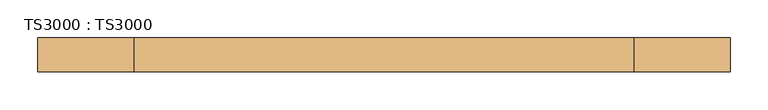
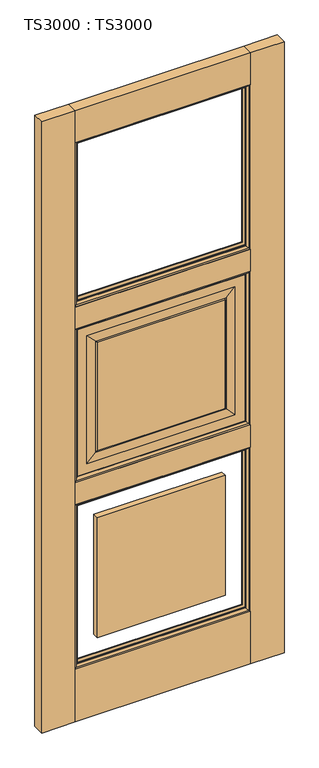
"""IFC4 building model written with IfcOpenShell, lengths in millimetres: door geometry, TS3000 : TS3000."""

from ifc_helpers import new_model, si_unit, frame, origin, origin_with_axes, place, context, project, spatial, polyline, ellipse_curve, outline, extrude, source, transform, mapped, element, save
from ifc_brep_helpers import plane_surface, revolved_surface, advanced_brep


def ts3000_ts3000_933aa4a2(model_context):
    return source(origin(), model_context, "Body", "SolidModel", [
        extrude(outline(polyline([(787.4, -44.45), (127.0, -44.45), (127.0, 0.0), (787.4, 0.0), (787.4, -44.45)])), origin_with_axes(), (0.0, 0.0, 1.0), 209.55),
        extrude(outline(polyline([(787.4, -44.45), (127.0, -44.45), (127.0, 0.0), (787.4, 0.0), (787.4, -44.45)])), frame((0.0, 0.0, 865.7166667), z_axis=(0.0, 0.0, 1.0), x_axis=(1.0, 0.0, 0.0)), (0.0, 0.0, 1.0), 88.9),
        extrude(outline(polyline([(787.4, -44.45), (127.0, -44.45), (127.0, 0.0), (787.4, 0.0), (787.4, -44.45)])), frame((0.0, 0.0, 2311.4), z_axis=(0.0, 0.0, 1.0), x_axis=(1.0, 0.0, 0.0)), (0.0, 0.0, 1.0), 127.0),
        extrude(outline(polyline([(787.4, -44.45), (127.0, -44.45), (127.0, 0.0), (787.4, 0.0), (787.4, -44.45)])), frame((0.0, 0.0, 1566.3333333), z_axis=(0.0, 0.0, 1.0), x_axis=(1.0, 0.0, 0.0)), (0.0, 0.0, 1.0), 88.9),
        extrude(outline(polyline([(914.4, -44.45), (787.4, -44.45), (787.4, 0.0), (914.4, 0.0), (914.4, -44.45)])), origin_with_axes(), (0.0, 0.0, 1.0), 2438.4),
        extrude(outline(polyline([(127.0, -44.45), (0.0, -44.45), (0.0, 0.0), (127.0, 0.0), (127.0, -44.45)])), origin_with_axes(), (0.0, 0.0, 1.0), 2438.4),
        advanced_brep(
        [(787.4, -12.7, 1566.3333333), (787.4, -31.75, 1566.3333333), (787.4, -31.75, 954.6166667), (787.4, -12.7, 954.6166667), (127.0, -31.75, 1566.3333333), (127.0, -31.75, 954.6166667), (736.6, -31.75, 1005.4166667), (177.8, -31.75, 1005.4166667), (177.8, -31.75, 1515.5333333), (736.6, -31.75, 1515.5333333), (127.0, -12.7, 954.6166667), (127.0, -12.7, 1566.3333333), (736.6, -12.7, 1515.5333333), (177.8, -12.7, 1515.5333333), (177.8, -12.7, 1005.4166667), (736.6, -12.7, 1005.4166667), (698.5, -33.3375, 1477.4333333), (698.5, -11.1125, 1477.4333333), (698.5, -11.1125, 1043.5166667), (698.5, -33.3375, 1043.5166667), (703.2625, -13.49375, 1482.1958333), (703.2625, -13.49375, 1038.7541667), (215.9, -11.1125, 1043.5166667), (215.9, -33.3375, 1043.5166667), (703.2625, -30.95625, 1482.1958333), (703.2625, -30.95625, 1038.7541667), (211.1375, -13.49375, 1038.7541667), (215.9, -11.1125, 1477.4333333), (215.9, -33.3375, 1477.4333333), (211.1375, -30.95625, 1038.7541667), (211.1375, -13.49375, 1482.1958333), (211.1375, -30.95625, 1482.1958333)],
        [
            (0, 1),
            (1, 2),
            (2, 3),
            (3, 0),
            (1, 4),
            (4, 5),
            (5, 2),
            (6, 7),
            (7, 8),
            (8, 9),
            (9, 6),
            (5, 10),
            (10, 3),
            (10, 11),
            (11, 0),
            (12, 13),
            (13, 14),
            (14, 15),
            (15, 12),
            (16, 17),
            (17, 18),
            (18, 19),
            (19, 16),
            (17, 20, ellipse_curve(frame((703.7585938, -6.5484375, 1482.6919271), z_axis=(-0.7071067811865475, 0.0, 0.7071067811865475), x_axis=(-0.7071067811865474, 0.0, -0.7071067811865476)), 9.8471798, 6.9630076)),
            (20, 21),
            (21, 18, ellipse_curve(frame((703.7585938, -6.5484375, 1038.2580729), z_axis=(-0.7071067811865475, 0.0, -0.7071067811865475), x_axis=(0.7071067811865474, 0.0, -0.7071067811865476)), 9.8471798, 6.9630076)),
            (18, 22),
            (22, 23),
            (23, 19),
            (24, 16, ellipse_curve(frame((703.7585938, -37.9015625, 1482.6919271), z_axis=(-0.7071067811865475, 0.0, 0.7071067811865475), x_axis=(-0.7071067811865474, 0.0, -0.7071067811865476)), 9.8471798, 6.9630076)),
            (19, 25, ellipse_curve(frame((703.7585938, -37.9015625, 1038.2580729), z_axis=(-0.7071067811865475, 0.0, -0.7071067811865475), x_axis=(0.7071067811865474, 0.0, -0.7071067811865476)), 9.8471798, 6.9630076)),
            (25, 24),
            (4, 11),
            (21, 26),
            (26, 22, ellipse_curve(frame((210.6414063, -6.5484375, 1038.2580729), z_axis=(-0.7071067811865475, 0.0, 0.7071067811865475), x_axis=(-0.7071067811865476, 0.0, -0.7071067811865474)), 9.8471798, 6.9630076)),
            (22, 27),
            (27, 28),
            (28, 23),
            (23, 29, ellipse_curve(frame((210.6414063, -37.9015625, 1038.2580729), z_axis=(-0.7071067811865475, 0.0, 0.7071067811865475), x_axis=(-0.7071067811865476, 0.0, -0.7071067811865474)), 9.8471798, 6.9630076)),
            (29, 25),
            (26, 30),
            (30, 27, ellipse_curve(frame((210.6414063, -6.5484375, 1482.6919271), z_axis=(0.7071067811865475, 0.0, 0.7071067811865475), x_axis=(-0.7071067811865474, 0.0, 0.7071067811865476)), 9.8471798, 6.9630076)),
            (28, 31, ellipse_curve(frame((210.6414063, -37.9015625, 1482.6919271), z_axis=(0.7071067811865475, 0.0, 0.7071067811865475), x_axis=(-0.7071067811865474, 0.0, 0.7071067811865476)), 9.8471798, 6.9630076)),
            (31, 29),
            (6, 25),
            (29, 7),
            (31, 8),
            (9, 24),
            (26, 14),
            (13, 30),
            (21, 15),
            (20, 12),
            (27, 17),
            (16, 28),
            (31, 24),
            (20, 30),
        ],
        [
            plane_surface(frame((787.4, -31.75, 1566.3333333), z_axis=(1.0, 0.0, 0.0), x_axis=(0.0, 0.0, -1.0))),
            plane_surface(frame((177.8, -31.75, 1515.5333333), z_axis=(0.0, -1.0, 0.0), x_axis=(1.0, 0.0, 0.0))),
            plane_surface(frame((787.4, -31.75, 954.6166667), z_axis=(0.0, 0.0, -1.0), x_axis=(-1.0, 0.0, 0.0))),
            plane_surface(frame((127.0, -12.7, 1566.3333333), z_axis=(0.0, 1.0, 0.0), x_axis=(1.0, 0.0, 0.0))),
            plane_surface(frame((698.5, -11.1125, 1477.4333333), z_axis=(-1.0, 0.0, 0.0), x_axis=(0.0, 0.0, -1.0))),
            revolved_surface(polyline([(696.7955862, -6.5484375, 1031.2950652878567), (696.7955862, -6.5484375, 1489.6549347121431)]), (703.7585938, -6.5484375, 1477.4333333), (0.0, 0.0, -1.0)),
            plane_surface(frame((698.5, -11.1125, 1043.5166667), z_axis=(0.0, 0.0, 1.0), x_axis=(-1.0, 0.0, 0.0))),
            revolved_surface(polyline([(696.7955862, -37.9015625, 1031.2950652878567), (696.7955862, -37.9015625, 1489.6549347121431)]), (703.7585938, -37.9015625, 1477.4333333), (0.0, 0.0, -1.0)),
            plane_surface(frame((127.0, -31.75, 954.6166667), z_axis=(-1.0, 0.0, 0.0), x_axis=(0.0, 0.0, 1.0))),
            revolved_surface(polyline([(203.67839868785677, -6.5484375, 1045.2210805), (710.7216014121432, -6.5484375, 1045.2210805)]), (698.5, -6.5484375, 1038.2580729), (-1.0, 0.0, 0.0)),
            plane_surface(frame((215.9, -11.1125, 1043.5166667), z_axis=(1.0, 0.0, 0.0), x_axis=(0.0, 0.0, 1.0))),
            revolved_surface(polyline([(203.67839868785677, -37.9015625, 1045.2210805), (710.7216014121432, -37.9015625, 1045.2210805)]), (698.5, -37.9015625, 1038.2580729), (-1.0, 0.0, 0.0)),
            revolved_surface(polyline([(217.6044139, -6.5484375, 1489.6549347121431), (217.6044139, -6.5484375, 1031.2950652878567)]), (210.6414063, -6.5484375, 1043.5166667), (0.0, 0.0, 1.0)),
            revolved_surface(polyline([(217.6044139, -37.9015625, 1489.6549347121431), (217.6044139, -37.9015625, 1031.2950652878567)]), (210.6414063, -37.9015625, 1043.5166667), (0.0, 0.0, 1.0)),
            plane_surface(frame((703.2625, -30.95625, 1038.7541667), z_axis=(0.0, -0.9997166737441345, 0.023802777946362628), x_axis=(-1.0, 0.0, 0.0))),
            plane_surface(frame((211.1375, -30.95625, 1038.7541667), z_axis=(0.023802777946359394, -0.9997166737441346, 0.0), x_axis=(0.0, 0.0, 1.0))),
            plane_surface(frame((703.2625, -30.95625, 1482.1958333), z_axis=(-0.02380277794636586, -0.9997166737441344, 0.0), x_axis=(0.0, 0.0, -1.0))),
            plane_surface(frame((177.8, -12.7, 1005.4166667), z_axis=(0.023802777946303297, 0.9997166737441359, 0.0), x_axis=(0.0, 0.0, 1.0))),
            plane_surface(frame((736.6, -12.7, 1005.4166667), z_axis=(0.0, 0.999716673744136, 0.023802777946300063), x_axis=(-1.0, 0.0, 0.0))),
            plane_surface(frame((736.6, -12.7, 1515.5333333), z_axis=(-0.02380277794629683, 0.9997166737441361, 0.0), x_axis=(0.0, 0.0, -1.0))),
            plane_surface(frame((127.0, -31.75, 1566.3333333), z_axis=(0.0, 0.0, 1.0), x_axis=(1.0, 0.0, 0.0))),
            plane_surface(frame((215.9, -11.1125, 1477.4333333), z_axis=(0.0, 0.0, -1.0), x_axis=(1.0, 0.0, 0.0))),
            plane_surface(frame((211.1375, -30.95625, 1482.1958333), z_axis=(0.0, -0.9997166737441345, -0.023802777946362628), x_axis=(1.0, 0.0, 0.0))),
            plane_surface(frame((177.8, -12.7, 1515.5333333), z_axis=(0.0, 0.999716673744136, -0.023802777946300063), x_axis=(1.0, 0.0, 0.0))),
            revolved_surface(polyline([(710.7216014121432, -6.5484375, 1475.7289194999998), (203.6783986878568, -6.5484375, 1475.7289194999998)]), (215.9, -6.5484375, 1482.6919271), (1.0, 0.0, 0.0)),
            revolved_surface(polyline([(710.7216014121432, -37.9015625, 1475.7289194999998), (203.6783986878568, -37.9015625, 1475.7289194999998)]), (215.9, -37.9015625, 1482.6919271), (1.0, 0.0, 0.0)),
        ],
        [
            (0, [[1, 2, 3, 4]]),
            (1, [[5, 6, 7, -2], [8, 9, 10, 11]]),
            (2, [[-3, -7, 12, 13]]),
            (3, [[-13, 14, 15, -4], [16, 17, 18, 19]]),
            (4, [[20, 21, 22, 23]]),
            (5, [[24, 25, 26, -21]]),
            (6, [[-22, 27, 28, 29]]),
            (7, [[30, -23, 31, 32]]),
            (8, [[-12, -6, 33, -14]]),
            (9, [[-26, 34, 35, -27]]),
            (10, [[-28, 36, 37, 38]]),
            (11, [[-31, -29, 39, 40]]),
            (12, [[-35, 41, 42, -36]]),
            (13, [[-39, -38, 43, 44]]),
            (14, [[45, -40, 46, -8]]),
            (15, [[-46, -44, 47, -9]]),
            (16, [[48, -32, -45, -11]]),
            (17, [[49, -17, 50, -41]]),
            (18, [[51, -18, -49, -34]]),
            (19, [[52, -19, -51, -25]]),
            (20, [[-33, -5, -1, -15]]),
            (21, [[-37, 53, -20, 54]]),
            (22, [[-47, 55, -48, -10]]),
            (23, [[-50, -16, -52, 56]]),
            (24, [[-42, -56, -24, -53]]),
            (25, [[-43, -54, -30, -55]]),
        ],
    ),
        extrude(outline(polyline([(215.9, -11.1125), (698.5, -11.1125), (698.5, -33.3375), (215.9, -33.3375), (215.9, -11.1125)])), frame((0.0, 0.0, 298.45), z_axis=(0.0, 0.0, 1.0), x_axis=(1.0, 0.0, 0.0)), (0.0, 0.0, 1.0), 478.3666667),
        extrude(outline(polyline([(215.9, -11.1125), (698.5, -11.1125), (698.5, -33.3375), (215.9, -33.3375), (215.9, -11.1125)])), frame((0.0, 0.0, 1043.5166667), z_axis=(0.0, 0.0, 1.0), x_axis=(1.0, 0.0, 0.0)), (0.0, 0.0, 1.0), 433.9166667),
        advanced_brep(
        [(787.4, -31.75, 865.7166667), (787.4, -44.4610047, 865.7166667), (787.4, -44.4610047, 209.55), (787.4, -31.75, 209.55), (774.6912454, -34.925, 853.007912), (774.6912454, -31.75, 853.007912), (774.6912454, -31.75, 222.2587546), (774.6912454, -34.925, 222.2587546), (782.5328423, -41.275, 860.849509), (782.5328423, -41.275, 214.4171577), (127.0, -44.4610047, 209.55), (127.0, -31.75, 209.55), (139.7087546, -31.75, 222.2587546), (139.7087546, -34.925, 222.2587546), (131.8671577, -41.275, 214.4171577), (127.0, -44.4610047, 865.7166667), (127.0, -31.75, 865.7166667), (139.7087546, -31.75, 853.007912), (139.7087546, -34.925, 853.007912), (131.8671577, -41.275, 860.849509)],
        [
            (0, 1),
            (1, 2),
            (2, 3),
            (3, 0),
            (4, 5),
            (5, 6),
            (6, 7),
            (7, 4),
            (8, 4, ellipse_curve(frame((770.549739, -48.0561173, 848.8664057), z_axis=(-0.7071067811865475, 0.0, 0.7071067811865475), x_axis=(-0.7071067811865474, 0.0, -0.7071067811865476)), 19.4719447, 13.7687442)),
            (7, 9, ellipse_curve(frame((770.549739, -48.0561173, 226.400261), z_axis=(-0.7071067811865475, 0.0, -0.7071067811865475), x_axis=(0.7071067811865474, 0.0, -0.7071067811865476)), 19.4719447, 13.7687442)),
            (9, 8),
            (1, 8, ellipse_curve(frame((779.4613821, -51.2778746, 857.7780488), z_axis=(-0.7071067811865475, 0.0, 0.7071067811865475), x_axis=(-0.7071067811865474, 0.0, -0.7071067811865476)), 14.7980653, 10.4638123)),
            (9, 2, ellipse_curve(frame((779.4613821, -51.2778746, 217.4886179), z_axis=(-0.7071067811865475, 0.0, -0.7071067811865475), x_axis=(0.7071067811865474, 0.0, -0.7071067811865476)), 14.7980653, 10.4638123)),
            (2, 10),
            (10, 11),
            (11, 3),
            (6, 12),
            (12, 13),
            (13, 7),
            (13, 14, ellipse_curve(frame((143.850261, -48.0561173, 226.400261), z_axis=(-0.7071067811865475, 0.0, 0.7071067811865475), x_axis=(-0.7071067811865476, 0.0, -0.7071067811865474)), 19.4719447, 13.7687442)),
            (14, 9),
            (14, 10, ellipse_curve(frame((134.9386179, -51.2778746, 217.4886179), z_axis=(-0.7071067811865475, 0.0, 0.7071067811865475), x_axis=(-0.7071067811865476, 0.0, -0.7071067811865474)), 14.7980653, 10.4638123)),
            (10, 15),
            (15, 16),
            (16, 11),
            (12, 17),
            (17, 18),
            (18, 13),
            (18, 19, ellipse_curve(frame((143.850261, -48.0561173, 848.8664057), z_axis=(0.7071067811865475, 0.0, 0.7071067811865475), x_axis=(-0.7071067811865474, 0.0, 0.7071067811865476)), 19.4719447, 13.7687442)),
            (19, 14),
            (19, 15, ellipse_curve(frame((134.9386179, -51.2778746, 857.7780488), z_axis=(0.7071067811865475, 0.0, 0.7071067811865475), x_axis=(-0.7071067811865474, 0.0, 0.7071067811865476)), 14.7980653, 10.4638123)),
            (15, 1),
            (0, 16),
            (5, 17),
            (4, 18),
            (8, 19),
        ],
        [
            plane_surface(frame((787.4, -44.4610047, 865.7166667), z_axis=(1.0, 0.0, 0.0), x_axis=(0.0, 0.0, -1.0))),
            plane_surface(frame((774.6912454, -31.75, 853.007912), z_axis=(-1.0, 0.0, 0.0), x_axis=(0.0, 0.0, -1.0))),
            revolved_surface(polyline([(756.7809948, -48.0561173, 212.6315168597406), (756.7809948, -48.0561173, 862.6351498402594)]), (770.549739, -48.0561173, 865.7166667), (0.0, 0.0, -1.0)),
            revolved_surface(polyline([(768.9975698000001, -51.2778746, 207.02480557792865), (768.9975698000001, -51.2778746, 868.2418611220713)]), (779.4613821, -51.2778746, 865.7166667), (0.0, 0.0, -1.0)),
            plane_surface(frame((787.4, -44.4610047, 209.55), z_axis=(0.0, 0.0, -1.0), x_axis=(-1.0, 0.0, 0.0))),
            plane_surface(frame((774.6912454, -31.75, 222.2587546), z_axis=(0.0, 0.0, 1.0), x_axis=(-1.0, 0.0, 0.0))),
            revolved_surface(polyline([(130.08151685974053, -48.0561173, 240.16900520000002), (784.3184831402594, -48.0561173, 240.16900520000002)]), (787.4, -48.0561173, 226.400261), (-1.0, 0.0, 0.0)),
            revolved_surface(polyline([(124.47480557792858, -51.2778746, 227.9524302), (789.9251944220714, -51.2778746, 227.9524302)]), (787.4, -51.2778746, 217.4886179), (-1.0, 0.0, 0.0)),
            plane_surface(frame((127.0, -44.4610047, 209.55), z_axis=(-1.0, 0.0, 0.0), x_axis=(0.0, 0.0, 1.0))),
            plane_surface(frame((139.7087546, -31.75, 222.2587546), z_axis=(1.0, 0.0, 0.0), x_axis=(0.0, 0.0, 1.0))),
            revolved_surface(polyline([(157.6190052, -48.0561173, 862.6351498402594), (157.6190052, -48.0561173, 212.63151685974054)]), (143.850261, -48.0561173, 209.55), (0.0, 0.0, 1.0)),
            revolved_surface(polyline([(145.4024302, -51.2778746, 868.2418611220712), (145.4024302, -51.2778746, 207.02480557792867)]), (134.9386179, -51.2778746, 209.55), (0.0, 0.0, 1.0)),
            plane_surface(frame((127.0, -44.4610047, 865.7166667), z_axis=(0.0, 0.0, 1.0), x_axis=(1.0, 0.0, 0.0))),
            plane_surface(frame((127.0, -31.75, 865.7166667), z_axis=(0.0, 1.0, 0.0), x_axis=(1.0, 0.0, 0.0))),
            plane_surface(frame((139.7087546, -31.75, 853.007912), z_axis=(0.0, 0.0, -1.0), x_axis=(1.0, 0.0, 0.0))),
            revolved_surface(polyline([(784.3184831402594, -48.0561173, 835.0976615), (130.08151685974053, -48.0561173, 835.0976615)]), (127.0, -48.0561173, 848.8664057), (1.0, 0.0, 0.0)),
            revolved_surface(polyline([(789.9251944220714, -51.2778746, 847.3142365), (124.47480557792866, -51.2778746, 847.3142365)]), (127.0, -51.2778746, 857.7780488), (1.0, 0.0, 0.0)),
        ],
        [
            (0, [[1, 2, 3, 4]]),
            (1, [[5, 6, 7, 8]]),
            (2, [[9, -8, 10, 11]]),
            (3, [[12, -11, 13, -2]]),
            (4, [[-3, 14, 15, 16]]),
            (5, [[-7, 17, 18, 19]]),
            (6, [[-10, -19, 20, 21]]),
            (7, [[-13, -21, 22, -14]]),
            (8, [[-15, 23, 24, 25]]),
            (9, [[-18, 26, 27, 28]]),
            (10, [[-20, -28, 29, 30]]),
            (11, [[-22, -30, 31, -23]]),
            (12, [[-24, 32, -1, 33]]),
            (13, [[-16, -25, -33, -4], [34, -26, -17, -6]]),
            (14, [[-27, -34, -5, 35]]),
            (15, [[-29, -35, -9, 36]]),
            (16, [[-31, -36, -12, -32]]),
        ],
    ),
        advanced_brep(
        [(782.5328423, -3.175, 860.849509), (787.4, 0.0110047, 865.7166667), (787.4, 0.0110047, 209.55), (782.5328423, -3.175, 214.4171577), (774.6912454, -9.525, 853.007912), (774.6912454, -9.525, 222.2587546), (774.6912454, -12.7, 853.007912), (774.6912454, -12.7, 222.2587546), (787.4, -12.7, 865.7166667), (787.4, -12.7, 209.55), (127.0, 0.0110047, 209.55), (131.8671577, -3.175, 214.4171577), (139.7087546, -9.525, 222.2587546), (139.7087546, -12.7, 222.2587546), (127.0, -12.7, 209.55), (127.0, 0.0110047, 865.7166667), (131.8671577, -3.175, 860.849509), (139.7087546, -9.525, 853.007912), (139.7087546, -12.7, 853.007912), (127.0, -12.7, 865.7166667)],
        [
            (0, 1, ellipse_curve(frame((779.4613821, 6.8278746, 857.7780488), z_axis=(-0.7071067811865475, 0.0, 0.7071067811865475), x_axis=(-0.7071067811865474, 0.0, -0.7071067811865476)), 14.7980653, 10.4638123)),
            (1, 2),
            (2, 3, ellipse_curve(frame((779.4613821, 6.8278746, 217.4886179), z_axis=(-0.7071067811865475, 0.0, -0.7071067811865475), x_axis=(0.7071067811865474, 0.0, -0.7071067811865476)), 14.7980653, 10.4638123)),
            (3, 0),
            (4, 0, ellipse_curve(frame((770.549739, 3.6061173, 848.8664057), z_axis=(-0.7071067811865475, 0.0, 0.7071067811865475), x_axis=(-0.7071067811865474, 0.0, -0.7071067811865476)), 19.4719447, 13.7687442)),
            (3, 5, ellipse_curve(frame((770.549739, 3.6061173, 226.400261), z_axis=(-0.7071067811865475, 0.0, -0.7071067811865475), x_axis=(0.7071067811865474, 0.0, -0.7071067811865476)), 19.4719447, 13.7687442)),
            (5, 4),
            (6, 4),
            (5, 7),
            (7, 6),
            (1, 8),
            (8, 9),
            (9, 2),
            (2, 10),
            (10, 11, ellipse_curve(frame((134.9386179, 6.8278746, 217.4886179), z_axis=(-0.7071067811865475, 0.0, 0.7071067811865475), x_axis=(-0.7071067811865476, 0.0, -0.7071067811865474)), 14.7980653, 10.4638123)),
            (11, 3),
            (11, 12, ellipse_curve(frame((143.850261, 3.6061173, 226.400261), z_axis=(-0.7071067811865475, 0.0, 0.7071067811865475), x_axis=(-0.7071067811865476, 0.0, -0.7071067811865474)), 19.4719447, 13.7687442)),
            (12, 5),
            (12, 13),
            (13, 7),
            (9, 14),
            (14, 10),
            (10, 15),
            (15, 16, ellipse_curve(frame((134.9386179, 6.8278746, 857.7780488), z_axis=(0.7071067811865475, 0.0, 0.7071067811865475), x_axis=(-0.7071067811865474, 0.0, 0.7071067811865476)), 14.7980653, 10.4638123)),
            (16, 11),
            (16, 17, ellipse_curve(frame((143.850261, 3.6061173, 848.8664057), z_axis=(0.7071067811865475, 0.0, 0.7071067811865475), x_axis=(-0.7071067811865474, 0.0, 0.7071067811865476)), 19.4719447, 13.7687442)),
            (17, 12),
            (17, 18),
            (18, 13),
            (14, 19),
            (19, 15),
            (15, 1),
            (0, 16),
            (4, 17),
            (6, 18),
            (8, 19),
        ],
        [
            revolved_surface(polyline([(768.9975698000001, 6.8278746, 207.02480557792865), (768.9975698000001, 6.8278746, 868.2418611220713)]), (779.4613821, 6.8278746, 865.7166667), (0.0, 0.0, -1.0)),
            revolved_surface(polyline([(756.7809948, 3.6061173, 212.6315168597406), (756.7809948, 3.6061173, 862.6351498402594)]), (770.549739, 3.6061173, 865.7166667), (0.0, 0.0, -1.0)),
            plane_surface(frame((774.6912454, -9.525, 853.007912), z_axis=(-1.0, 0.0, 0.0), x_axis=(0.0, 0.0, -1.0))),
            plane_surface(frame((787.4, -12.7, 865.7166667), z_axis=(1.0, 0.0, 0.0), x_axis=(0.0, 0.0, -1.0))),
            revolved_surface(polyline([(124.47480557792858, 6.8278746, 227.9524302), (789.9251944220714, 6.8278746, 227.9524302)]), (787.4, 6.8278746, 217.4886179), (-1.0, 0.0, 0.0)),
            revolved_surface(polyline([(130.08151685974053, 3.6061173, 240.16900520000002), (784.3184831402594, 3.6061173, 240.16900520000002)]), (787.4, 3.6061173, 226.400261), (-1.0, 0.0, 0.0)),
            plane_surface(frame((774.6912454, -9.525, 222.2587546), z_axis=(0.0, 0.0, 1.0), x_axis=(-1.0, 0.0, 0.0))),
            plane_surface(frame((787.4, -12.7, 209.55), z_axis=(0.0, 0.0, -1.0), x_axis=(-1.0, 0.0, 0.0))),
            revolved_surface(polyline([(145.4024302, 6.8278746, 868.2418611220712), (145.4024302, 6.8278746, 207.02480557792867)]), (134.9386179, 6.8278746, 209.55), (0.0, 0.0, 1.0)),
            revolved_surface(polyline([(157.6190052, 3.6061173, 862.6351498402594), (157.6190052, 3.6061173, 212.63151685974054)]), (143.850261, 3.6061173, 209.55), (0.0, 0.0, 1.0)),
            plane_surface(frame((139.7087546, -9.525, 222.2587546), z_axis=(1.0, 0.0, 0.0), x_axis=(0.0, 0.0, 1.0))),
            plane_surface(frame((127.0, -12.7, 209.55), z_axis=(-1.0, 0.0, 0.0), x_axis=(0.0, 0.0, 1.0))),
            revolved_surface(polyline([(789.9251944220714, 6.8278746, 847.3142365), (124.47480557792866, 6.8278746, 847.3142365)]), (127.0, 6.8278746, 857.7780488), (1.0, 0.0, 0.0)),
            revolved_surface(polyline([(784.3184831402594, 3.6061173, 835.0976615), (130.08151685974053, 3.6061173, 835.0976615)]), (127.0, 3.6061173, 848.8664057), (1.0, 0.0, 0.0)),
            plane_surface(frame((139.7087546, -9.525, 853.007912), z_axis=(0.0, 0.0, -1.0), x_axis=(1.0, 0.0, 0.0))),
            plane_surface(frame((139.7087546, -12.7, 853.007912), z_axis=(0.0, -1.0, 0.0), x_axis=(1.0, 0.0, 0.0))),
            plane_surface(frame((127.0, -12.7, 865.7166667), z_axis=(0.0, 0.0, 1.0), x_axis=(1.0, 0.0, 0.0))),
        ],
        [
            (0, [[1, 2, 3, 4]]),
            (1, [[5, -4, 6, 7]]),
            (2, [[8, -7, 9, 10]]),
            (3, [[11, 12, 13, -2]]),
            (4, [[-3, 14, 15, 16]]),
            (5, [[-6, -16, 17, 18]]),
            (6, [[-9, -18, 19, 20]]),
            (7, [[-13, 21, 22, -14]]),
            (8, [[-15, 23, 24, 25]]),
            (9, [[-17, -25, 26, 27]]),
            (10, [[-19, -27, 28, 29]]),
            (11, [[-22, 30, 31, -23]]),
            (12, [[-24, 32, -1, 33]]),
            (13, [[-26, -33, -5, 34]]),
            (14, [[-28, -34, -8, 35]]),
            (15, [[36, -30, -21, -12], [-20, -29, -35, -10]]),
            (16, [[-31, -36, -11, -32]]),
        ],
    ),
        advanced_brep(
        [(787.4, -31.75, 1566.3333333), (787.4, -44.4610047, 1566.3333333), (787.4, -44.4610047, 954.6166667), (787.4, -31.75, 954.6166667), (774.6912454, -34.925, 1553.6245787), (774.6912454, -31.75, 1553.6245787), (774.6912454, -31.75, 967.3254213), (774.6912454, -34.925, 967.3254213), (782.5328423, -41.275, 1561.4661757), (782.5328423, -41.275, 959.4838243), (127.0, -44.4610047, 954.6166667), (127.0, -31.75, 954.6166667), (139.7087546, -31.75, 967.3254213), (139.7087546, -34.925, 967.3254213), (131.8671577, -41.275, 959.4838243), (127.0, -44.4610047, 1566.3333333), (127.0, -31.75, 1566.3333333), (139.7087546, -31.75, 1553.6245787), (139.7087546, -34.925, 1553.6245787), (131.8671577, -41.275, 1561.4661757)],
        [
            (0, 1),
            (1, 2),
            (2, 3),
            (3, 0),
            (4, 5),
            (5, 6),
            (6, 7),
            (7, 4),
            (8, 4, ellipse_curve(frame((770.549739, -48.0561173, 1549.4830724), z_axis=(-0.7071067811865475, 0.0, 0.7071067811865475), x_axis=(-0.7071067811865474, 0.0, -0.7071067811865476)), 19.4719447, 13.7687442)),
            (7, 9, ellipse_curve(frame((770.549739, -48.0561173, 971.4669276), z_axis=(-0.7071067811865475, 0.0, -0.7071067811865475), x_axis=(0.7071067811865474, 0.0, -0.7071067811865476)), 19.4719447, 13.7687442)),
            (9, 8),
            (1, 8, ellipse_curve(frame((779.4613821, -51.2778746, 1558.3947155), z_axis=(-0.7071067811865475, 0.0, 0.7071067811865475), x_axis=(-0.7071067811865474, 0.0, -0.7071067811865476)), 14.7980653, 10.4638123)),
            (9, 2, ellipse_curve(frame((779.4613821, -51.2778746, 962.5552845), z_axis=(-0.7071067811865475, 0.0, -0.7071067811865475), x_axis=(0.7071067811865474, 0.0, -0.7071067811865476)), 14.7980653, 10.4638123)),
            (2, 10),
            (10, 11),
            (11, 3),
            (6, 12),
            (12, 13),
            (13, 7),
            (13, 14, ellipse_curve(frame((143.850261, -48.0561173, 971.4669276), z_axis=(-0.7071067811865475, 0.0, 0.7071067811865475), x_axis=(-0.7071067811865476, 0.0, -0.7071067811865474)), 19.4719447, 13.7687442)),
            (14, 9),
            (14, 10, ellipse_curve(frame((134.9386179, -51.2778746, 962.5552845), z_axis=(-0.7071067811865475, 0.0, 0.7071067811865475), x_axis=(-0.7071067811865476, 0.0, -0.7071067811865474)), 14.7980653, 10.4638123)),
            (10, 15),
            (15, 16),
            (16, 11),
            (12, 17),
            (17, 18),
            (18, 13),
            (18, 19, ellipse_curve(frame((143.850261, -48.0561173, 1549.4830724), z_axis=(0.7071067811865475, 0.0, 0.7071067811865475), x_axis=(-0.7071067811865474, 0.0, 0.7071067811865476)), 19.4719447, 13.7687442)),
            (19, 14),
            (19, 15, ellipse_curve(frame((134.9386179, -51.2778746, 1558.3947155), z_axis=(0.7071067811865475, 0.0, 0.7071067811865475), x_axis=(-0.7071067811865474, 0.0, 0.7071067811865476)), 14.7980653, 10.4638123)),
            (15, 1),
            (0, 16),
            (5, 17),
            (4, 18),
            (8, 19),
        ],
        [
            plane_surface(frame((787.4, -44.4610047, 1566.3333333), z_axis=(1.0, 0.0, 0.0), x_axis=(0.0, 0.0, -1.0))),
            plane_surface(frame((774.6912454, -31.75, 1553.6245787), z_axis=(-1.0, 0.0, 0.0), x_axis=(0.0, 0.0, -1.0))),
            revolved_surface(polyline([(756.7809948, -48.0561173, 957.6981834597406), (756.7809948, -48.0561173, 1563.2518165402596)]), (770.549739, -48.0561173, 1566.3333333), (0.0, 0.0, -1.0)),
            revolved_surface(polyline([(768.9975698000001, -51.2778746, 952.0914721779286), (768.9975698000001, -51.2778746, 1568.8585278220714)]), (779.4613821, -51.2778746, 1566.3333333), (0.0, 0.0, -1.0)),
            plane_surface(frame((787.4, -44.4610047, 954.6166667), z_axis=(0.0, 0.0, -1.0), x_axis=(-1.0, 0.0, 0.0))),
            plane_surface(frame((774.6912454, -31.75, 967.3254213), z_axis=(0.0, 0.0, 1.0), x_axis=(-1.0, 0.0, 0.0))),
            revolved_surface(polyline([(130.08151685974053, -48.0561173, 985.2356718), (784.3184831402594, -48.0561173, 985.2356718)]), (787.4, -48.0561173, 971.4669276), (-1.0, 0.0, 0.0)),
            revolved_surface(polyline([(124.47480557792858, -51.2778746, 973.0190967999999), (789.9251944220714, -51.2778746, 973.0190967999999)]), (787.4, -51.2778746, 962.5552845), (-1.0, 0.0, 0.0)),
            plane_surface(frame((127.0, -44.4610047, 954.6166667), z_axis=(-1.0, 0.0, 0.0), x_axis=(0.0, 0.0, 1.0))),
            plane_surface(frame((139.7087546, -31.75, 967.3254213), z_axis=(1.0, 0.0, 0.0), x_axis=(0.0, 0.0, 1.0))),
            revolved_surface(polyline([(157.6190052, -48.0561173, 1563.2518165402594), (157.6190052, -48.0561173, 957.6981834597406)]), (143.850261, -48.0561173, 954.6166667), (0.0, 0.0, 1.0)),
            revolved_surface(polyline([(145.4024302, -51.2778746, 1568.8585278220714), (145.4024302, -51.2778746, 952.0914721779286)]), (134.9386179, -51.2778746, 954.6166667), (0.0, 0.0, 1.0)),
            plane_surface(frame((127.0, -44.4610047, 1566.3333333), z_axis=(0.0, 0.0, 1.0), x_axis=(1.0, 0.0, 0.0))),
            plane_surface(frame((127.0, -31.75, 1566.3333333), z_axis=(0.0, 1.0, 0.0), x_axis=(1.0, 0.0, 0.0))),
            plane_surface(frame((139.7087546, -31.75, 1553.6245787), z_axis=(0.0, 0.0, -1.0), x_axis=(1.0, 0.0, 0.0))),
            revolved_surface(polyline([(784.3184831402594, -48.0561173, 1535.7143282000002), (130.08151685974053, -48.0561173, 1535.7143282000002)]), (127.0, -48.0561173, 1549.4830724), (1.0, 0.0, 0.0)),
            revolved_surface(polyline([(789.9251944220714, -51.2778746, 1547.9309032), (124.47480557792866, -51.2778746, 1547.9309032)]), (127.0, -51.2778746, 1558.3947155), (1.0, 0.0, 0.0)),
        ],
        [
            (0, [[1, 2, 3, 4]]),
            (1, [[5, 6, 7, 8]]),
            (2, [[9, -8, 10, 11]]),
            (3, [[12, -11, 13, -2]]),
            (4, [[-3, 14, 15, 16]]),
            (5, [[-7, 17, 18, 19]]),
            (6, [[-10, -19, 20, 21]]),
            (7, [[-13, -21, 22, -14]]),
            (8, [[-15, 23, 24, 25]]),
            (9, [[-18, 26, 27, 28]]),
            (10, [[-20, -28, 29, 30]]),
            (11, [[-22, -30, 31, -23]]),
            (12, [[-24, 32, -1, 33]]),
            (13, [[-16, -25, -33, -4], [34, -26, -17, -6]]),
            (14, [[-27, -34, -5, 35]]),
            (15, [[-29, -35, -9, 36]]),
            (16, [[-31, -36, -12, -32]]),
        ],
    ),
        advanced_brep(
        [(782.5328423, -3.175, 1561.4661757), (787.4, 0.0110047, 1566.3333333), (787.4, 0.0110047, 954.6166667), (782.5328423, -3.175, 959.4838243), (774.6912454, -9.525, 1553.6245787), (774.6912454, -9.525, 967.3254213), (774.6912454, -12.7, 1553.6245787), (774.6912454, -12.7, 967.3254213), (787.4, -12.7, 1566.3333333), (787.4, -12.7, 954.6166667), (127.0, 0.0110047, 954.6166667), (131.8671577, -3.175, 959.4838243), (139.7087546, -9.525, 967.3254213), (139.7087546, -12.7, 967.3254213), (127.0, -12.7, 954.6166667), (127.0, 0.0110047, 1566.3333333), (131.8671577, -3.175, 1561.4661757), (139.7087546, -9.525, 1553.6245787), (139.7087546, -12.7, 1553.6245787), (127.0, -12.7, 1566.3333333)],
        [
            (0, 1, ellipse_curve(frame((779.4613821, 6.8278746, 1558.3947155), z_axis=(-0.7071067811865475, 0.0, 0.7071067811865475), x_axis=(-0.7071067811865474, 0.0, -0.7071067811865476)), 14.7980653, 10.4638123)),
            (1, 2),
            (2, 3, ellipse_curve(frame((779.4613821, 6.8278746, 962.5552845), z_axis=(-0.7071067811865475, 0.0, -0.7071067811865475), x_axis=(0.7071067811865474, 0.0, -0.7071067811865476)), 14.7980653, 10.4638123)),
            (3, 0),
            (4, 0, ellipse_curve(frame((770.549739, 3.6061173, 1549.4830724), z_axis=(-0.7071067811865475, 0.0, 0.7071067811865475), x_axis=(-0.7071067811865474, 0.0, -0.7071067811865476)), 19.4719447, 13.7687442)),
            (3, 5, ellipse_curve(frame((770.549739, 3.6061173, 971.4669276), z_axis=(-0.7071067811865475, 0.0, -0.7071067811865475), x_axis=(0.7071067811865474, 0.0, -0.7071067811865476)), 19.4719447, 13.7687442)),
            (5, 4),
            (6, 4),
            (5, 7),
            (7, 6),
            (1, 8),
            (8, 9),
            (9, 2),
            (2, 10),
            (10, 11, ellipse_curve(frame((134.9386179, 6.8278746, 962.5552845), z_axis=(-0.7071067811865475, 0.0, 0.7071067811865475), x_axis=(-0.7071067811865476, 0.0, -0.7071067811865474)), 14.7980653, 10.4638123)),
            (11, 3),
            (11, 12, ellipse_curve(frame((143.850261, 3.6061173, 971.4669276), z_axis=(-0.7071067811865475, 0.0, 0.7071067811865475), x_axis=(-0.7071067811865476, 0.0, -0.7071067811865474)), 19.4719447, 13.7687442)),
            (12, 5),
            (12, 13),
            (13, 7),
            (9, 14),
            (14, 10),
            (10, 15),
            (15, 16, ellipse_curve(frame((134.9386179, 6.8278746, 1558.3947155), z_axis=(0.7071067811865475, 0.0, 0.7071067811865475), x_axis=(-0.7071067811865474, 0.0, 0.7071067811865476)), 14.7980653, 10.4638123)),
            (16, 11),
            (16, 17, ellipse_curve(frame((143.850261, 3.6061173, 1549.4830724), z_axis=(0.7071067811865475, 0.0, 0.7071067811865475), x_axis=(-0.7071067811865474, 0.0, 0.7071067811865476)), 19.4719447, 13.7687442)),
            (17, 12),
            (17, 18),
            (18, 13),
            (14, 19),
            (19, 15),
            (15, 1),
            (0, 16),
            (4, 17),
            (6, 18),
            (8, 19),
        ],
        [
            revolved_surface(polyline([(768.9975698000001, 6.8278746, 952.0914721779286), (768.9975698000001, 6.8278746, 1568.8585278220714)]), (779.4613821, 6.8278746, 1566.3333333), (0.0, 0.0, -1.0)),
            revolved_surface(polyline([(756.7809948, 3.6061173, 957.6981834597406), (756.7809948, 3.6061173, 1563.2518165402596)]), (770.549739, 3.6061173, 1566.3333333), (0.0, 0.0, -1.0)),
            plane_surface(frame((774.6912454, -9.525, 1553.6245787), z_axis=(-1.0, 0.0, 0.0), x_axis=(0.0, 0.0, -1.0))),
            plane_surface(frame((787.4, -12.7, 1566.3333333), z_axis=(1.0, 0.0, 0.0), x_axis=(0.0, 0.0, -1.0))),
            revolved_surface(polyline([(124.47480557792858, 6.8278746, 973.0190967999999), (789.9251944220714, 6.8278746, 973.0190967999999)]), (787.4, 6.8278746, 962.5552845), (-1.0, 0.0, 0.0)),
            revolved_surface(polyline([(130.08151685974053, 3.6061173, 985.2356718), (784.3184831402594, 3.6061173, 985.2356718)]), (787.4, 3.6061173, 971.4669276), (-1.0, 0.0, 0.0)),
            plane_surface(frame((774.6912454, -9.525, 967.3254213), z_axis=(0.0, 0.0, 1.0), x_axis=(-1.0, 0.0, 0.0))),
            plane_surface(frame((787.4, -12.7, 954.6166667), z_axis=(0.0, 0.0, -1.0), x_axis=(-1.0, 0.0, 0.0))),
            revolved_surface(polyline([(145.4024302, 6.8278746, 1568.8585278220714), (145.4024302, 6.8278746, 952.0914721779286)]), (134.9386179, 6.8278746, 954.6166667), (0.0, 0.0, 1.0)),
            revolved_surface(polyline([(157.6190052, 3.6061173, 1563.2518165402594), (157.6190052, 3.6061173, 957.6981834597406)]), (143.850261, 3.6061173, 954.6166667), (0.0, 0.0, 1.0)),
            plane_surface(frame((139.7087546, -9.525, 967.3254213), z_axis=(1.0, 0.0, 0.0), x_axis=(0.0, 0.0, 1.0))),
            plane_surface(frame((127.0, -12.7, 954.6166667), z_axis=(-1.0, 0.0, 0.0), x_axis=(0.0, 0.0, 1.0))),
            revolved_surface(polyline([(789.9251944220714, 6.8278746, 1547.9309032), (124.47480557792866, 6.8278746, 1547.9309032)]), (127.0, 6.8278746, 1558.3947155), (1.0, 0.0, 0.0)),
            revolved_surface(polyline([(784.3184831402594, 3.6061173, 1535.7143282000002), (130.08151685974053, 3.6061173, 1535.7143282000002)]), (127.0, 3.6061173, 1549.4830724), (1.0, 0.0, 0.0)),
            plane_surface(frame((139.7087546, -9.525, 1553.6245787), z_axis=(0.0, 0.0, -1.0), x_axis=(1.0, 0.0, 0.0))),
            plane_surface(frame((139.7087546, -12.7, 1553.6245787), z_axis=(0.0, -1.0, 0.0), x_axis=(1.0, 0.0, 0.0))),
            plane_surface(frame((127.0, -12.7, 1566.3333333), z_axis=(0.0, 0.0, 1.0), x_axis=(1.0, 0.0, 0.0))),
        ],
        [
            (0, [[1, 2, 3, 4]]),
            (1, [[5, -4, 6, 7]]),
            (2, [[8, -7, 9, 10]]),
            (3, [[11, 12, 13, -2]]),
            (4, [[-3, 14, 15, 16]]),
            (5, [[-6, -16, 17, 18]]),
            (6, [[-9, -18, 19, 20]]),
            (7, [[-13, 21, 22, -14]]),
            (8, [[-15, 23, 24, 25]]),
            (9, [[-17, -25, 26, 27]]),
            (10, [[-19, -27, 28, 29]]),
            (11, [[-22, 30, 31, -23]]),
            (12, [[-24, 32, -1, 33]]),
            (13, [[-26, -33, -5, 34]]),
            (14, [[-28, -34, -8, 35]]),
            (15, [[36, -30, -21, -12], [-20, -29, -35, -10]]),
            (16, [[-31, -36, -11, -32]]),
        ],
    ),
        advanced_brep(
        [(787.4, -31.75, 2311.4), (787.4, -44.4610047, 2311.4), (787.4, -44.4610047, 1655.2333333), (787.4, -31.75, 1655.2333333), (774.6912454, -34.925, 2298.6912454), (774.6912454, -31.75, 2298.6912454), (774.6912454, -31.75, 1667.942088), (774.6912454, -34.925, 1667.942088), (782.5328423, -41.275, 2306.5328423), (782.5328423, -41.275, 1660.100491), (127.0, -44.4610047, 1655.2333333), (127.0, -31.75, 1655.2333333), (139.7087546, -31.75, 1667.942088), (139.7087546, -34.925, 1667.942088), (131.8671577, -41.275, 1660.100491), (127.0, -44.4610047, 2311.4), (127.0, -31.75, 2311.4), (139.7087546, -31.75, 2298.6912454), (139.7087546, -34.925, 2298.6912454), (131.8671577, -41.275, 2306.5328423)],
        [
            (0, 1),
            (1, 2),
            (2, 3),
            (3, 0),
            (4, 5),
            (5, 6),
            (6, 7),
            (7, 4),
            (8, 4, ellipse_curve(frame((771.2743353, -47.1613154, 2295.2743353), z_axis=(-0.7071067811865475, 0.0, 0.7071067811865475), x_axis=(-0.7071067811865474, 0.0, -0.7071067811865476)), 17.9667854, 12.7044358)),
            (7, 9, ellipse_curve(frame((771.2743353, -47.1613154, 1671.358998), z_axis=(-0.7071067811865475, 0.0, -0.7071067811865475), x_axis=(0.7071067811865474, 0.0, -0.7071067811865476)), 17.9667854, 12.7044358)),
            (9, 8),
            (1, 8, ellipse_curve(frame((780.1585588, -50.2128202, 2304.1585588), z_axis=(-0.7071067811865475, 0.0, 0.7071067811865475), x_axis=(-0.7071067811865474, 0.0, -0.7071067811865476)), 13.0783678, 9.2478026)),
            (9, 2, ellipse_curve(frame((780.1585588, -50.2128202, 1662.4747746), z_axis=(-0.7071067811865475, 0.0, -0.7071067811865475), x_axis=(0.7071067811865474, 0.0, -0.7071067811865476)), 13.0783678, 9.2478026)),
            (2, 10),
            (10, 11),
            (11, 3),
            (6, 12),
            (12, 13),
            (13, 7),
            (13, 14, ellipse_curve(frame((143.1256647, -47.1613154, 1671.358998), z_axis=(-0.7071067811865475, 0.0, 0.7071067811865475), x_axis=(-0.7071067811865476, 0.0, -0.7071067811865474)), 17.9667854, 12.7044358)),
            (14, 9),
            (14, 10, ellipse_curve(frame((134.2414412, -50.2128202, 1662.4747746), z_axis=(-0.7071067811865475, 0.0, 0.7071067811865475), x_axis=(-0.7071067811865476, 0.0, -0.7071067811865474)), 13.0783678, 9.2478026)),
            (10, 15),
            (15, 16),
            (16, 11),
            (12, 17),
            (17, 18),
            (18, 13),
            (18, 19, ellipse_curve(frame((143.1256647, -47.1613154, 2295.2743353), z_axis=(0.7071067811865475, 0.0, 0.7071067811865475), x_axis=(-0.7071067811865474, 0.0, 0.7071067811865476)), 17.9667854, 12.7044358)),
            (19, 14),
            (19, 15, ellipse_curve(frame((134.2414412, -50.2128202, 2304.1585588), z_axis=(0.7071067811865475, 0.0, 0.7071067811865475), x_axis=(-0.7071067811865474, 0.0, 0.7071067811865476)), 13.0783678, 9.2478026)),
            (15, 1),
            (0, 16),
            (5, 17),
            (4, 18),
            (8, 19),
        ],
        [
            plane_surface(frame((787.4, -44.4610047, 2311.4), z_axis=(1.0, 0.0, 0.0), x_axis=(0.0, 0.0, -1.0))),
            plane_surface(frame((774.6912454, -31.75, 2298.6912454), z_axis=(-1.0, 0.0, 0.0), x_axis=(0.0, 0.0, -1.0))),
            revolved_surface(polyline([(758.5698994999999, -47.1613154, 1658.6545622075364), (758.5698994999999, -47.1613154, 2307.9787710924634)]), (771.2743353, -47.1613154, 2311.4), (0.0, 0.0, -1.0)),
            revolved_surface(polyline([(770.9107562, -50.2128202, 1653.2269720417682), (770.9107562, -50.2128202, 2313.4063613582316)]), (780.1585588, -50.2128202, 2311.4), (0.0, 0.0, -1.0)),
            plane_surface(frame((787.4, -44.4610047, 1655.2333333), z_axis=(0.0, 0.0, -1.0), x_axis=(-1.0, 0.0, 0.0))),
            plane_surface(frame((774.6912454, -31.75, 1667.942088), z_axis=(0.0, 0.0, 1.0), x_axis=(-1.0, 0.0, 0.0))),
            revolved_surface(polyline([(130.4212289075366, -47.1613154, 1684.0634338), (783.9787710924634, -47.1613154, 1684.0634338)]), (787.4, -47.1613154, 1671.358998), (-1.0, 0.0, 0.0)),
            revolved_surface(polyline([(124.99363864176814, -50.2128202, 1671.7225772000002), (789.4063613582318, -50.2128202, 1671.7225772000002)]), (787.4, -50.2128202, 1662.4747746), (-1.0, 0.0, 0.0)),
            plane_surface(frame((127.0, -44.4610047, 1655.2333333), z_axis=(-1.0, 0.0, 0.0), x_axis=(0.0, 0.0, 1.0))),
            plane_surface(frame((139.7087546, -31.75, 1667.942088), z_axis=(1.0, 0.0, 0.0), x_axis=(0.0, 0.0, 1.0))),
            revolved_surface(polyline([(155.8301005, -47.1613154, 2307.9787710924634), (155.8301005, -47.1613154, 1658.6545622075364)]), (143.1256647, -47.1613154, 1655.2333333), (0.0, 0.0, 1.0)),
            revolved_surface(polyline([(143.4892438, -50.2128202, 2313.4063613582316), (143.4892438, -50.2128202, 1653.2269720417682)]), (134.2414412, -50.2128202, 1655.2333333), (0.0, 0.0, 1.0)),
            plane_surface(frame((127.0, -44.4610047, 2311.4), z_axis=(0.0, 0.0, 1.0), x_axis=(1.0, 0.0, 0.0))),
            plane_surface(frame((127.0, -31.75, 2311.4), z_axis=(0.0, 1.0, 0.0), x_axis=(1.0, 0.0, 0.0))),
            plane_surface(frame((139.7087546, -31.75, 2298.6912454), z_axis=(0.0, 0.0, -1.0), x_axis=(1.0, 0.0, 0.0))),
            revolved_surface(polyline([(783.9787710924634, -47.1613154, 2282.5698995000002), (130.42122890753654, -47.1613154, 2282.5698995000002)]), (127.0, -47.1613154, 2295.2743353), (1.0, 0.0, 0.0)),
            revolved_surface(polyline([(789.4063613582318, -50.2128202, 2294.9107562), (124.99363864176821, -50.2128202, 2294.9107562)]), (127.0, -50.2128202, 2304.1585588), (1.0, 0.0, 0.0)),
        ],
        [
            (0, [[1, 2, 3, 4]]),
            (1, [[5, 6, 7, 8]]),
            (2, [[9, -8, 10, 11]]),
            (3, [[12, -11, 13, -2]]),
            (4, [[-3, 14, 15, 16]]),
            (5, [[-7, 17, 18, 19]]),
            (6, [[-10, -19, 20, 21]]),
            (7, [[-13, -21, 22, -14]]),
            (8, [[-15, 23, 24, 25]]),
            (9, [[-18, 26, 27, 28]]),
            (10, [[-20, -28, 29, 30]]),
            (11, [[-22, -30, 31, -23]]),
            (12, [[-24, 32, -1, 33]]),
            (13, [[-16, -25, -33, -4], [34, -26, -17, -6]]),
            (14, [[-27, -34, -5, 35]]),
            (15, [[-29, -35, -9, 36]]),
            (16, [[-31, -36, -12, -32]]),
        ],
    ),
        advanced_brep(
        [(782.5328423, -3.175, 2306.5328423), (787.4, 0.0110047, 2311.4), (787.4, 0.0110047, 1655.2333333), (782.5328423, -3.175, 1660.100491), (774.6912454, -9.525, 2298.6912454), (774.6912454, -9.525, 1667.942088), (774.6912454, -12.7, 2298.6912454), (774.6912454, -12.7, 1667.942088), (787.4, -12.7, 2311.4), (787.4, -12.7, 1655.2333333), (127.0, 0.0110047, 1655.2333333), (131.8671577, -3.175, 1660.100491), (139.7087546, -9.525, 1667.942088), (139.7087546, -12.7, 1667.942088), (127.0, -12.7, 1655.2333333), (127.0, 0.0110047, 2311.4), (131.8671577, -3.175, 2306.5328423), (139.7087546, -9.525, 2298.6912454), (139.7087546, -12.7, 2298.6912454), (127.0, -12.7, 2311.4)],
        [
            (0, 1, ellipse_curve(frame((780.1585588, 5.7628202, 2304.1585588), z_axis=(-0.7071067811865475, 0.0, 0.7071067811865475), x_axis=(-0.7071067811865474, 0.0, -0.7071067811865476)), 13.0783678, 9.2478026)),
            (1, 2),
            (2, 3, ellipse_curve(frame((780.1585588, 5.7628202, 1662.4747746), z_axis=(-0.7071067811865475, 0.0, -0.7071067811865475), x_axis=(0.7071067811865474, 0.0, -0.7071067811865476)), 13.0783678, 9.2478026)),
            (3, 0),
            (4, 0, ellipse_curve(frame((771.2743353, 2.7113154, 2295.2743353), z_axis=(-0.7071067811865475, 0.0, 0.7071067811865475), x_axis=(-0.7071067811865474, 0.0, -0.7071067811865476)), 17.9667854, 12.7044358)),
            (3, 5, ellipse_curve(frame((771.2743353, 2.7113154, 1671.358998), z_axis=(-0.7071067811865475, 0.0, -0.7071067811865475), x_axis=(0.7071067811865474, 0.0, -0.7071067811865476)), 17.9667854, 12.7044358)),
            (5, 4),
            (6, 4),
            (5, 7),
            (7, 6),
            (1, 8),
            (8, 9),
            (9, 2),
            (2, 10),
            (10, 11, ellipse_curve(frame((134.2414412, 5.7628202, 1662.4747746), z_axis=(-0.7071067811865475, 0.0, 0.7071067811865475), x_axis=(-0.7071067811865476, 0.0, -0.7071067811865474)), 13.0783678, 9.2478026)),
            (11, 3),
            (11, 12, ellipse_curve(frame((143.1256647, 2.7113154, 1671.358998), z_axis=(-0.7071067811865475, 0.0, 0.7071067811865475), x_axis=(-0.7071067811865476, 0.0, -0.7071067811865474)), 17.9667854, 12.7044358)),
            (12, 5),
            (12, 13),
            (13, 7),
            (9, 14),
            (14, 10),
            (10, 15),
            (15, 16, ellipse_curve(frame((134.2414412, 5.7628202, 2304.1585588), z_axis=(0.7071067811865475, 0.0, 0.7071067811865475), x_axis=(-0.7071067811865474, 0.0, 0.7071067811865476)), 13.0783678, 9.2478026)),
            (16, 11),
            (16, 17, ellipse_curve(frame((143.1256647, 2.7113154, 2295.2743353), z_axis=(0.7071067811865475, 0.0, 0.7071067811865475), x_axis=(-0.7071067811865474, 0.0, 0.7071067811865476)), 17.9667854, 12.7044358)),
            (17, 12),
            (17, 18),
            (18, 13),
            (14, 19),
            (19, 15),
            (15, 1),
            (0, 16),
            (4, 17),
            (6, 18),
            (8, 19),
        ],
        [
            revolved_surface(polyline([(770.9107562, 5.7628202, 1653.2269720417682), (770.9107562, 5.7628202, 2313.4063613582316)]), (780.1585588, 5.7628202, 2311.4), (0.0, 0.0, -1.0)),
            revolved_surface(polyline([(758.5698994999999, 2.7113154, 1658.6545622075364), (758.5698994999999, 2.7113154, 2307.9787710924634)]), (771.2743353, 2.7113154, 2311.4), (0.0, 0.0, -1.0)),
            plane_surface(frame((774.6912454, -9.525, 2298.6912454), z_axis=(-1.0, 0.0, 0.0), x_axis=(0.0, 0.0, -1.0))),
            plane_surface(frame((787.4, -12.7, 2311.4), z_axis=(1.0, 0.0, 0.0), x_axis=(0.0, 0.0, -1.0))),
            revolved_surface(polyline([(124.99363864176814, 5.7628202, 1671.7225772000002), (789.4063613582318, 5.7628202, 1671.7225772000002)]), (787.4, 5.7628202, 1662.4747746), (-1.0, 0.0, 0.0)),
            revolved_surface(polyline([(130.4212289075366, 2.7113154, 1684.0634338), (783.9787710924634, 2.7113154, 1684.0634338)]), (787.4, 2.7113154, 1671.358998), (-1.0, 0.0, 0.0)),
            plane_surface(frame((774.6912454, -9.525, 1667.942088), z_axis=(0.0, 0.0, 1.0), x_axis=(-1.0, 0.0, 0.0))),
            plane_surface(frame((787.4, -12.7, 1655.2333333), z_axis=(0.0, 0.0, -1.0), x_axis=(-1.0, 0.0, 0.0))),
            revolved_surface(polyline([(143.4892438, 5.7628202, 2313.4063613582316), (143.4892438, 5.7628202, 1653.2269720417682)]), (134.2414412, 5.7628202, 1655.2333333), (0.0, 0.0, 1.0)),
            revolved_surface(polyline([(155.8301005, 2.7113154, 2307.9787710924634), (155.8301005, 2.7113154, 1658.6545622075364)]), (143.1256647, 2.7113154, 1655.2333333), (0.0, 0.0, 1.0)),
            plane_surface(frame((139.7087546, -9.525, 1667.942088), z_axis=(1.0, 0.0, 0.0), x_axis=(0.0, 0.0, 1.0))),
            plane_surface(frame((127.0, -12.7, 1655.2333333), z_axis=(-1.0, 0.0, 0.0), x_axis=(0.0, 0.0, 1.0))),
            revolved_surface(polyline([(789.4063613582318, 5.7628202, 2294.9107562), (124.99363864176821, 5.7628202, 2294.9107562)]), (127.0, 5.7628202, 2304.1585588), (1.0, 0.0, 0.0)),
            revolved_surface(polyline([(783.9787710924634, 2.7113154, 2282.5698995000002), (130.42122890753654, 2.7113154, 2282.5698995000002)]), (127.0, 2.7113154, 2295.2743353), (1.0, 0.0, 0.0)),
            plane_surface(frame((139.7087546, -9.525, 2298.6912454), z_axis=(0.0, 0.0, -1.0), x_axis=(1.0, 0.0, 0.0))),
            plane_surface(frame((139.7087546, -12.7, 2298.6912454), z_axis=(0.0, -1.0, 0.0), x_axis=(1.0, 0.0, 0.0))),
            plane_surface(frame((127.0, -12.7, 2311.4), z_axis=(0.0, 0.0, 1.0), x_axis=(1.0, 0.0, 0.0))),
        ],
        [
            (0, [[1, 2, 3, 4]]),
            (1, [[5, -4, 6, 7]]),
            (2, [[8, -7, 9, 10]]),
            (3, [[11, 12, 13, -2]]),
            (4, [[-3, 14, 15, 16]]),
            (5, [[-6, -16, 17, 18]]),
            (6, [[-9, -18, 19, 20]]),
            (7, [[-13, 21, 22, -14]]),
            (8, [[-15, 23, 24, 25]]),
            (9, [[-17, -25, 26, 27]]),
            (10, [[-19, -27, 28, 29]]),
            (11, [[-22, 30, 31, -23]]),
            (12, [[-24, 32, -1, 33]]),
            (13, [[-26, -33, -5, 34]]),
            (14, [[-28, -34, -8, 35]]),
            (15, [[36, -30, -21, -12], [-20, -29, -35, -10]]),
            (16, [[-31, -36, -11, -32]]),
        ],
    ),
    ])


if __name__ == "__main__":
    model = new_model("IFC4")
    model_context = context("Model", 3, world=origin())
    ifc_project = project(units=[si_unit("LENGTHUNIT", "METRE", prefix="MILLI")], contexts=[model_context])
    site = spatial("IfcSite", under=ifc_project)
    building = spatial("IfcBuilding", under=site)
    placement = place(None, origin())
    ts3000_ts3000_shape = ts3000_ts3000_933aa4a2(model_context)
    element("IfcDoor", 1, ObjectType="TS3000 : TS3000", at=placement, inside=building, context=model_context, shape_type="MappedRepresentation", body=[
        mapped(ts3000_ts3000_shape, transform((0.0, 0.0, 0.0), x_axis=(1.0, 0.0, 0.0), y_axis=(0.0, 1.0, 0.0), z_axis=(0.0, 0.0, 1.0))),
    ])
    save(model, "model.ifc")
